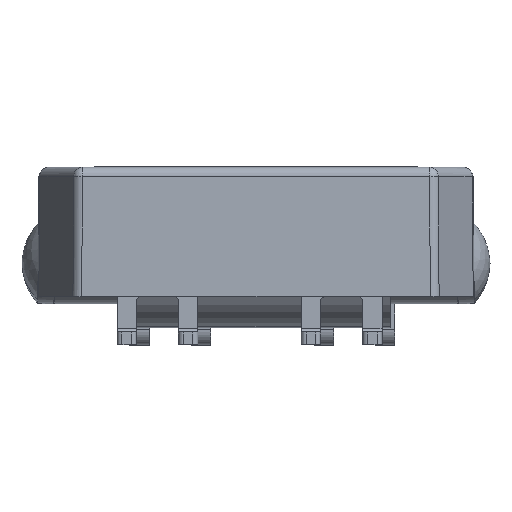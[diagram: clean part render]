
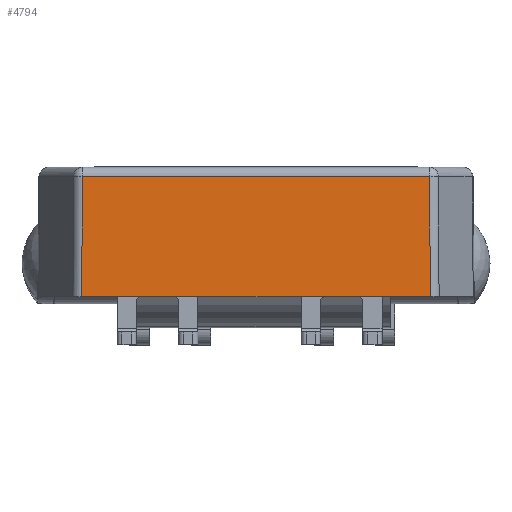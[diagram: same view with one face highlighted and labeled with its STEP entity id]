
A CAD part, top view. The second image highlights one B-rep face of the part: STEP entity #4794.
In plain terms, the highlighted planar face has unit normal (0, 0.009, 1).
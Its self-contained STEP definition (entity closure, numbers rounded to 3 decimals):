
#557 = EDGE_LOOP ( 'NONE', ( #7507, #4735, #10484, #1535 ) ) ;
#1535 = ORIENTED_EDGE ( 'NONE', *, *, #3895, .T. ) ;
#1841 = EDGE_CURVE ( 'NONE', #3416, #5498, #11693, .T. ) ;
#1882 = CARTESIAN_POINT ( 'NONE',  ( 0., 1.5, 4.5 ) ) ;
#2174 = CARTESIAN_POINT ( 'NONE',  ( 5.373, 5.203, 4.468 ) ) ;
#2294 = EDGE_CURVE ( 'NONE', #2592, #11905, #7920, .T. ) ;
#2407 = PLANE ( 'NONE',  #8000 ) ;
#2592 = VERTEX_POINT ( 'NONE', #2174 ) ;
#2761 = VECTOR ( 'NONE', #10875, 1000. ) ;
#2948 = CARTESIAN_POINT ( 'NONE',  ( 5.371, 5.499, 4.465 ) ) ;
#3416 = VERTEX_POINT ( 'NONE', #9909 ) ;
#3764 = DIRECTION ( 'NONE',  ( 1., 0., 0. ) ) ;
#3895 = EDGE_CURVE ( 'NONE', #11905, #3416, #10822, .T. ) ;
#3927 = LINE ( 'NONE', #2948, #2761 ) ;
#4384 = VECTOR ( 'NONE', #3764, 1000. ) ;
#4735 = ORIENTED_EDGE ( 'NONE', *, *, #10935, .T. ) ;
#4794 = ADVANCED_FACE ( 'NONE', ( #11457 ), #2407, .T. ) ;
#4937 = CARTESIAN_POINT ( 'NONE',  ( 5.393, 1.5, 4.5 ) ) ;
#5498 = VERTEX_POINT ( 'NONE', #4937 ) ;
#5739 = VECTOR ( 'NONE', #9957, 1000. ) ;
#5994 = DIRECTION ( 'NONE',  ( -1., 0., 0. ) ) ;
#6019 = CARTESIAN_POINT ( 'NONE',  ( -5.393, 1.499, 4.5 ) ) ;
#6956 = CARTESIAN_POINT ( 'NONE',  ( 0., 5.203, 4.468 ) ) ;
#7507 = ORIENTED_EDGE ( 'NONE', *, *, #1841, .T. ) ;
#7720 = CARTESIAN_POINT ( 'NONE',  ( 0., 1.5, 4.5 ) ) ;
#7920 = LINE ( 'NONE', #6956, #12260 ) ;
#8000 = AXIS2_PLACEMENT_3D ( 'NONE', #1882, #12678, #9759 ) ;
#9759 = DIRECTION ( 'NONE',  ( 0., -1., 0.009 ) ) ;
#9824 = CARTESIAN_POINT ( 'NONE',  ( -5.373, 5.203, 4.468 ) ) ;
#9909 = CARTESIAN_POINT ( 'NONE',  ( -5.393, 1.5, 4.5 ) ) ;
#9957 = DIRECTION ( 'NONE',  ( -0.006, -1., 0.009 ) ) ;
#10484 = ORIENTED_EDGE ( 'NONE', *, *, #2294, .T. ) ;
#10822 = LINE ( 'NONE', #6019, #5739 ) ;
#10875 = DIRECTION ( 'NONE',  ( -0.006, 1., -0.009 ) ) ;
#10935 = EDGE_CURVE ( 'NONE', #5498, #2592, #3927, .T. ) ;
#11457 = FACE_OUTER_BOUND ( 'NONE', #557, .T. ) ;
#11693 = LINE ( 'NONE', #7720, #4384 ) ;
#11905 = VERTEX_POINT ( 'NONE', #9824 ) ;
#12260 = VECTOR ( 'NONE', #5994, 1000. ) ;
#12678 = DIRECTION ( 'NONE',  ( 0., 0.009, 1. ) ) ;
